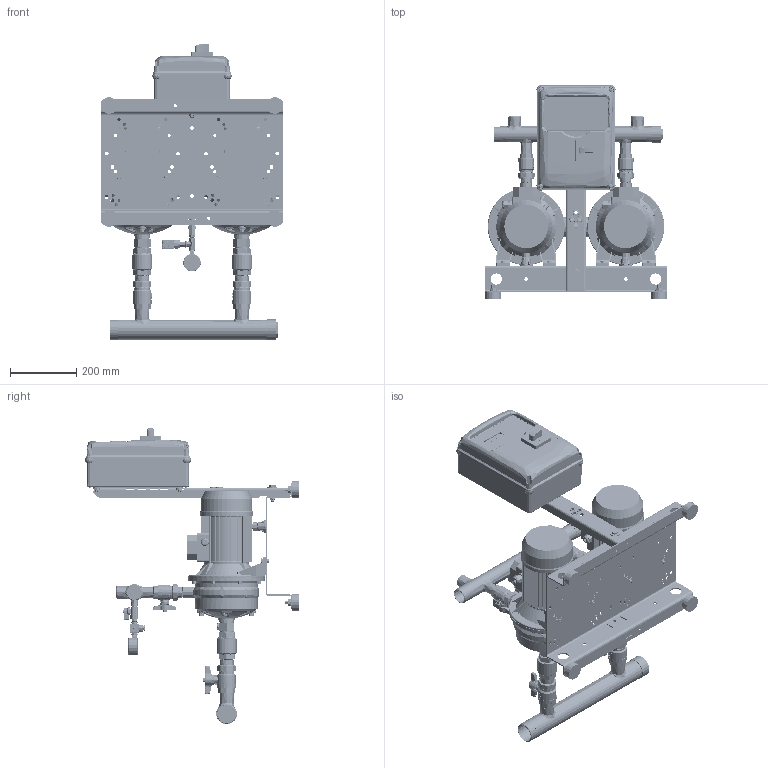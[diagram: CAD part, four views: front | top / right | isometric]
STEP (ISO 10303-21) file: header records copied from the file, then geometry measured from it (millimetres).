
FILE_DESCRIPTION((''),'2;1');
FILE_NAME('2GP_2CDX_70-20_REV5_ASM','2025-02-04T15:46:52',('Utente'),('"Ebara Pumps Europe S.p.A"'),'CREO PARAMETRIC BY PTC INC, 2022124','CREO PARAMETRIC BY PTC INC, 2022124','');
FILE_SCHEMA(('AUTOMOTIVE_DESIGN { 1 0 10303 214 1 1 1 1 }'));
Products named in the file (40): 62508_275562936; CALOTTA_F_A304_DN50_369800820; VAL_INT_MF-B_OTN_CIM346_DN32; VAL_INT_M-F-3_OTN_CIM346_DN32_ASM; VAL-NR-FF-OTN-CIM30-DN32; VAL_NR_F-F_OTN_CIM30_DN32_ASM; NIPPLO-ALIM_OT_DN32_361910051; TAPPO_M_OT_1-2_380000878; 3IEP_2CDX_70-20_IE3; EP_2CDX_70-20_ASM; VAL_INT_MF-B_OTN_CIM346_DN25; VAL_INT_M-F-3_OTN_CIM346_DN25_ASM; RONDEL-P_FE_ZN_UNI6592_M8; DADO_AUTOAGG_M8_ESAG; VITI_TE_ISO4017_M8_L20; 62510_275562939; CALOTTA_F_A304_DN40_369800819; TAPPO-SALVAFIL_D31; VAL_INT_MF_OTN_CIM012_DN8; NIPPLO_OTG_8_380000861; RACC-T_OTG_DN8_380000880; MAN_RAD_D50_10BAR_361600160; BASE_2GP_I300-B300_DNRV; MONTANTE_H600_271472877; PIEDINO_CIL_369650010; RONDEL-P_FE_ZN_UNI6592_M10; DADI_NORM_ISO4032_FE_ZN_M10; RONDEL-P_ZN_UNI6593_M10X30X2-5; VITI_TE_ISO4017_M10_L45; TRAVERSO_MONT_L200_271472882; RONDEL-P_FE_ZN_UNI6593_M6X18X2; RONDEL-P_FE_ZN_UNI6592_M6; VITI_TE_ISO4017_M6_L20; DADI_NORM_ISO4032_FE_ZN_M6; DADO_AUTOAGG_M10_ESAG; DNRV_2P_I300-B300_H600-Q220X300_ASM; COM_EP-PRO_2T_7-5_KW_362334215; PG_PVC_D10-5_380000891; TRASD_16BAR_460500024; 2GP_2CDX_70-20_REV5_ASM
Assembly tree (83 placements, depth 3):
  2GP_2CDX_70-20_REV5_ASM
    62508_275562936
    CALOTTA_F_A304_DN50_369800820
    VAL_INT_M-F-3_OTN_CIM346_DN32_ASM  x2
      VAL_INT_MF-B_OTN_CIM346_DN32
    VAL_NR_F-F_OTN_CIM30_DN32_ASM  x2
      VAL-NR-FF-OTN-CIM30-DN32
    NIPPLO-ALIM_OT_DN32_361910051  x2
    TAPPO_M_OT_1-2_380000878  x2
    EP_2CDX_70-20_ASM  x2
      3IEP_2CDX_70-20_IE3
    VAL_INT_M-F-3_OTN_CIM346_DN25_ASM  x2
      VAL_INT_MF-B_OTN_CIM346_DN25
    RONDEL-P_FE_ZN_UNI6592_M8  x4
    DADO_AUTOAGG_M8_ESAG  x4
    VITI_TE_ISO4017_M8_L20  x4
    62510_275562939
    CALOTTA_F_A304_DN40_369800819
    TAPPO-SALVAFIL_D31  x2
    VAL_INT_MF_OTN_CIM012_DN8
    NIPPLO_OTG_8_380000861
    RACC-T_OTG_DN8_380000880
    MAN_RAD_D50_10BAR_361600160
    DNRV_2P_I300-B300_H600-Q220X300_ASM
      BASE_2GP_I300-B300_DNRV
      MONTANTE_H600_271472877
      PIEDINO_CIL_369650010  x4
      RONDEL-P_FE_ZN_UNI6592_M10  x4
      DADI_NORM_ISO4032_FE_ZN_M10  x4
      RONDEL-P_ZN_UNI6593_M10X30X2-5
      VITI_TE_ISO4017_M10_L45
      TRAVERSO_MONT_L200_271472882  x2
      RONDEL-P_FE_ZN_UNI6593_M6X18X2  x8
      RONDEL-P_FE_ZN_UNI6592_M6  x4
      VITI_TE_ISO4017_M6_L20  x4
      DADI_NORM_ISO4032_FE_ZN_M6  x4
      DADO_AUTOAGG_M10_ESAG
    COM_EP-PRO_2T_7-5_KW_362334215
    PG_PVC_D10-5_380000891  x3
    TRASD_16BAR_460500024
Bounding box: 550 x 644.45 x 893.45 mm (x, y, z)
Volume: 12791850.4 mm3; surface area: 3411435 mm2
Topology: 1351 solids, 1488 shells, 21046 faces, 53363 edges, 35492 vertices
Faces by surface type: plane 14034, cylinder 3187, cone 1332, extrusion 943, bspline 809, torus 644, sphere 95, revolution 2
Entity records: 938626 total; most frequent: CARTESIAN_POINT 291195, ORIENTED_EDGE 79567, DIRECTION 74784, PRESENTATION_STYLE_ASSIGNMENT 51665, STYLED_ITEM 42196, EDGE_CURVE 40749, CURVE_STYLE 38716, VECTOR 30096
